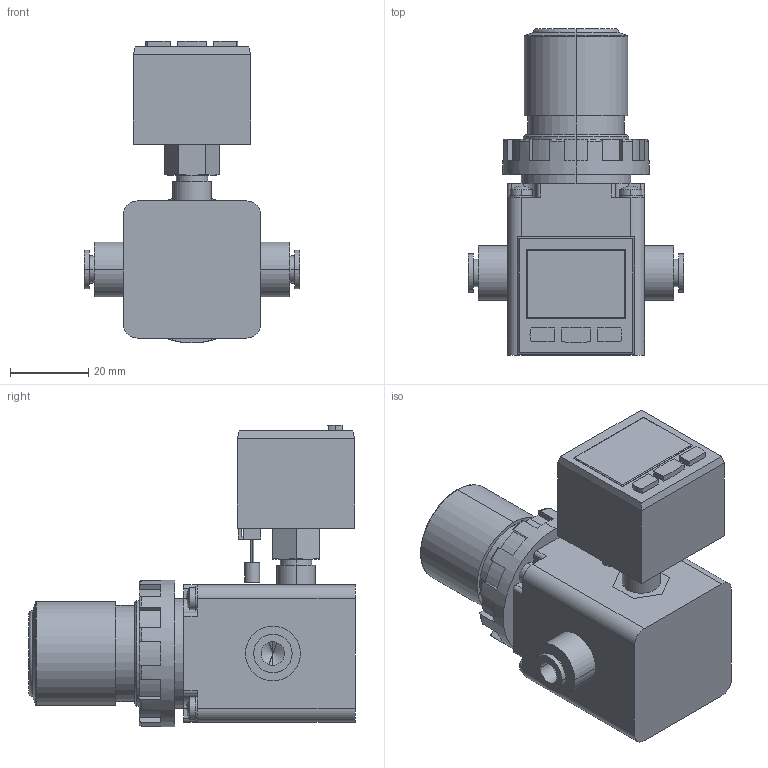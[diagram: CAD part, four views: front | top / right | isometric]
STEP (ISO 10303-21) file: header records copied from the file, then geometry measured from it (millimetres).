
FILE_DESCRIPTION (( 'STEP AP203' ), '1' );
FILE_NAME ('RV100-C06-SCD.STEP', '2022-01-25T19:27:07', ( '' ), ( '' ), 'SwSTEP 2.0', 'SolidWorks 2019', '' );
FILE_SCHEMA (( 'CONFIG_CONTROL_DESIGN' ));
Length unit declared in the file: millimetre
Products named in the file (1): RV100-C06-SCD
Bounding box: 55 x 83.3 x 77.05 mm (x, y, z)
Volume: 101810.5 mm3; surface area: 24651.1 mm2
Topology: 6 solids, 6 shells, 384 faces, 932 edges, 587 vertices
Faces by surface type: plane 174, cylinder 124, cone 58, torus 20, sphere 8
Entity records: 11603 total; most frequent: CARTESIAN_POINT 2342, DIRECTION 2006, ORIENTED_EDGE 1836, EDGE_CURVE 918, AXIS2_PLACEMENT_3D 751, VERTEX_POINT 587, VECTOR 504, LINE 504
